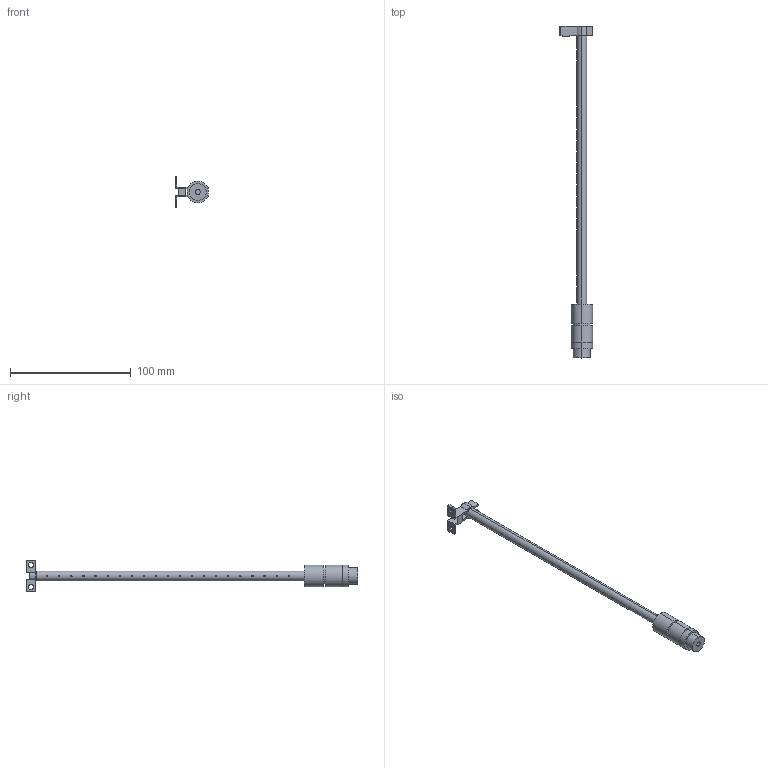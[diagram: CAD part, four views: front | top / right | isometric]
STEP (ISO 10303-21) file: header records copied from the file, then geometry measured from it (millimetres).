
FILE_DESCRIPTION (( 'STEP AP203' ), '1' );
FILE_NAME ('ER-VAB020.STEP', '2005-09-06T02:37:57', ( '' ), ( '' ), 'SwSTEP 2.0', 'SolidWorks 2004073', '' );
FILE_SCHEMA (( 'CONFIG_CONTROL_DESIGN' ));
Length unit declared in the file: millimetre
Products named in the file (1): ER-VAB020
Bounding box: 28 x 275 x 26 mm (x, y, z)
Volume: 19251.9 mm3; surface area: 13912.1 mm2
Topology: 2 solids, 2 shells, 103 faces, 272 edges, 180 vertices
Faces by surface type: cylinder 68, plane 35
Entity records: 3921 total; most frequent: CARTESIAN_POINT 1312, ORIENTED_EDGE 544, DIRECTION 448, EDGE_CURVE 272, VERTEX_POINT 180, EDGE_LOOP 156, AXIS2_PLACEMENT_3D 156, VECTOR 136
